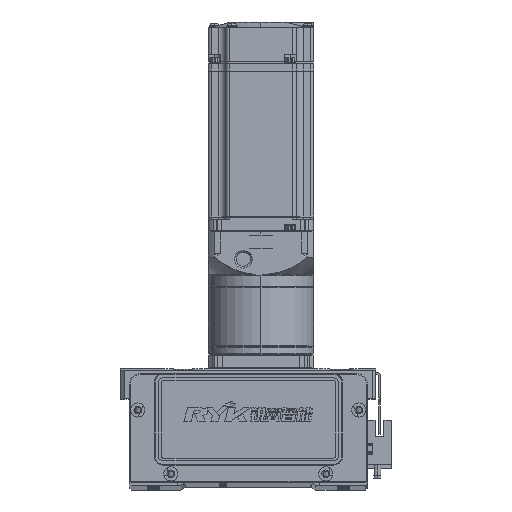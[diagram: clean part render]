
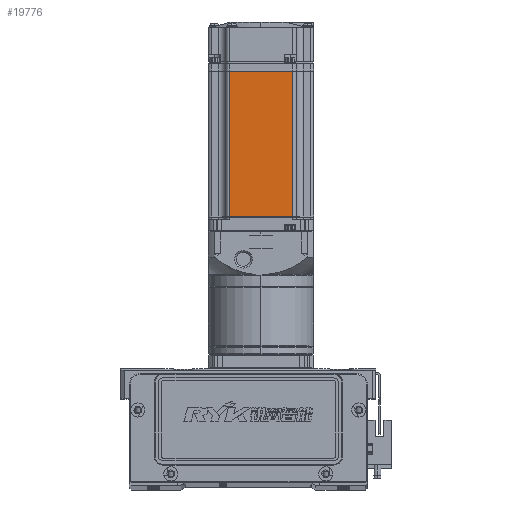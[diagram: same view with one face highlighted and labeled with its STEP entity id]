
A CAD part, top view. The second image highlights one B-rep face of the part: STEP entity #19776.
In plain terms, the highlighted planar face has unit normal (0, 0, 1).
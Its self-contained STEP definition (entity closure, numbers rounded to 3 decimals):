
#771 = DIRECTION ( 'NONE',  ( 1., 0., 0. ) ) ;
#2017 = VECTOR ( 'NONE', #54054, 1000. ) ;
#3311 = EDGE_LOOP ( 'NONE', ( #54016, #5465, #5195, #27550 ) ) ;
#5195 = ORIENTED_EDGE ( 'NONE', *, *, #68070, .T. ) ;
#5465 = ORIENTED_EDGE ( 'NONE', *, *, #60724, .T. ) ;
#6208 = CARTESIAN_POINT ( 'NONE',  ( -6.5, 18., 30. ) ) ;
#10759 = LINE ( 'NONE', #59569, #38469 ) ;
#11680 = VERTEX_POINT ( 'NONE', #53465 ) ;
#12677 = LINE ( 'NONE', #25505, #27012 ) ;
#17423 = DIRECTION ( 'NONE',  ( 0., -1., 0. ) ) ;
#18391 = DIRECTION ( 'NONE',  ( 0., 0., 1. ) ) ;
#19776 = ADVANCED_FACE ( 'NONE', ( #57217 ), #74083, .T. ) ;
#24396 = AXIS2_PLACEMENT_3D ( 'NONE', #49827, #18391, #771 ) ;
#24413 = VERTEX_POINT ( 'NONE', #36185 ) ;
#24950 = CARTESIAN_POINT ( 'NONE',  ( -90.45, -18., 30. ) ) ;
#25505 = CARTESIAN_POINT ( 'NONE',  ( -90.45, 0., 30. ) ) ;
#25963 = LINE ( 'NONE', #35430, #2017 ) ;
#27012 = VECTOR ( 'NONE', #62247, 1000. ) ;
#27550 = ORIENTED_EDGE ( 'NONE', *, *, #47550, .F. ) ;
#35430 = CARTESIAN_POINT ( 'NONE',  ( -6.5, -18., 30. ) ) ;
#36185 = CARTESIAN_POINT ( 'NONE',  ( -7.75, 18., 30. ) ) ;
#38469 = VECTOR ( 'NONE', #17423, 1000. ) ;
#41909 = EDGE_CURVE ( 'NONE', #24413, #11680, #10759, .T. ) ;
#47550 = EDGE_CURVE ( 'NONE', #11680, #77455, #25963, .T. ) ;
#49827 = CARTESIAN_POINT ( 'NONE',  ( -6.5, -25., 30. ) ) ;
#50496 = CARTESIAN_POINT ( 'NONE',  ( -90.45, 18., 30. ) ) ;
#53465 = CARTESIAN_POINT ( 'NONE',  ( -7.75, -18., 30. ) ) ;
#54016 = ORIENTED_EDGE ( 'NONE', *, *, #41909, .F. ) ;
#54054 = DIRECTION ( 'NONE',  ( -1., 0., 0. ) ) ;
#55494 = DIRECTION ( 'NONE',  ( -1., 0., 0. ) ) ;
#57217 = FACE_OUTER_BOUND ( 'NONE', #3311, .T. ) ;
#59569 = CARTESIAN_POINT ( 'NONE',  ( -7.75, 0., 30. ) ) ;
#60724 = EDGE_CURVE ( 'NONE', #24413, #78007, #60761, .T. ) ;
#60761 = LINE ( 'NONE', #6208, #69247 ) ;
#62247 = DIRECTION ( 'NONE',  ( 0., -1., 0. ) ) ;
#68070 = EDGE_CURVE ( 'NONE', #78007, #77455, #12677, .T. ) ;
#69247 = VECTOR ( 'NONE', #55494, 1000. ) ;
#74083 = PLANE ( 'NONE',  #24396 ) ;
#77455 = VERTEX_POINT ( 'NONE', #24950 ) ;
#78007 = VERTEX_POINT ( 'NONE', #50496 ) ;
